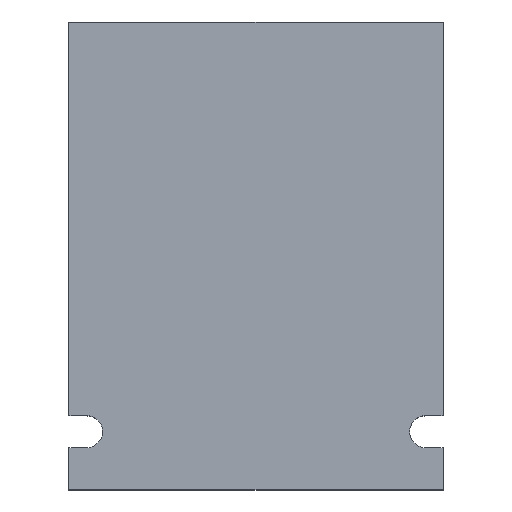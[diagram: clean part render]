
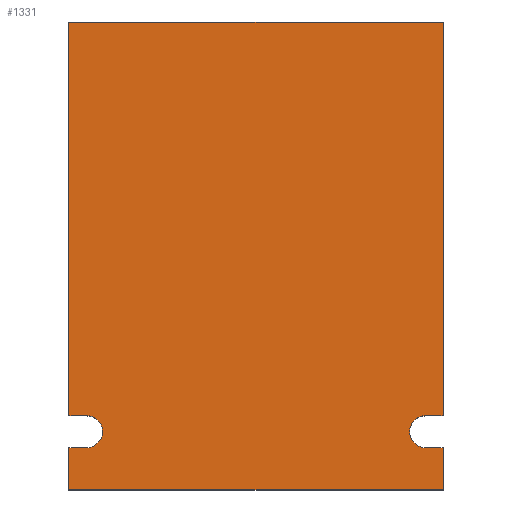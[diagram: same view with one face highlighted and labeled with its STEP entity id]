
A CAD part, top view. The second image highlights one B-rep face of the part: STEP entity #1331.
In plain terms, the highlighted planar face has unit normal (0, 0, 1).
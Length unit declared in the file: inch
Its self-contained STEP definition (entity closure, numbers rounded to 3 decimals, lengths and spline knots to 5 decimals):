
#1=DIRECTION('',(-1.,0.,0.));
#2=VECTOR('',#1,4.);
#3=CARTESIAN_POINT('',(4.,0.,0.));
#4=LINE('',#3,#2);
#27=DIRECTION('',(1.,0.,0.));
#28=VECTOR('',#27,0.188);
#29=CARTESIAN_POINT('',(0.,-4.552,0.));
#30=LINE('',#29,#28);
#31=CARTESIAN_POINT('',(0.188,-4.38,0.));
#32=DIRECTION('',(0.,0.,1.));
#33=DIRECTION('',(0.,-1.,0.));
#34=AXIS2_PLACEMENT_3D('',#31,#32,#33);
#36=DIRECTION('',(1.,0.,0.));
#37=VECTOR('',#36,0.188);
#38=CARTESIAN_POINT('',(0.,-4.208,0.));
#39=LINE('',#38,#37);
#40=DIRECTION('',(0.,1.,0.));
#41=VECTOR('',#40,4.208);
#42=CARTESIAN_POINT('',(0.,-4.208,0.));
#43=LINE('',#42,#41);
#44=DIRECTION('',(-1.,0.,0.));
#45=VECTOR('',#44,0.187);
#46=CARTESIAN_POINT('',(4.,-4.208,0.));
#47=LINE('',#46,#45);
#48=CARTESIAN_POINT('',(3.813,-4.38,0.));
#49=DIRECTION('',(0.,0.,1.));
#50=DIRECTION('',(0.,1.,0.));
#51=AXIS2_PLACEMENT_3D('',#48,#49,#50);
#53=DIRECTION('',(-1.,0.,0.));
#54=VECTOR('',#53,0.187);
#55=CARTESIAN_POINT('',(4.,-4.552,0.));
#56=LINE('',#55,#54);
#57=DIRECTION('',(0.,1.,0.));
#58=VECTOR('',#57,0.448);
#59=CARTESIAN_POINT('',(0.,-5.,0.));
#60=LINE('',#59,#58);
#87=DIRECTION('',(-1.,0.,0.));
#88=VECTOR('',#87,4.);
#89=CARTESIAN_POINT('',(4.,-5.,0.));
#90=LINE('',#89,#88);
#117=DIRECTION('',(0.,1.,0.));
#118=VECTOR('',#117,4.208);
#119=CARTESIAN_POINT('',(4.,-4.208,0.));
#120=LINE('',#119,#118);
#125=DIRECTION('',(0.,1.,0.));
#126=VECTOR('',#125,0.448);
#127=CARTESIAN_POINT('',(4.,-5.,0.));
#128=LINE('',#127,#126);
#1034=CARTESIAN_POINT('',(4.,0.,0.));
#1035=CARTESIAN_POINT('',(0.,0.,0.));
#1036=VERTEX_POINT('',#1034);
#1037=VERTEX_POINT('',#1035);
#1042=CARTESIAN_POINT('',(4.,-5.,0.));
#1043=CARTESIAN_POINT('',(0.,-5.,0.));
#1044=VERTEX_POINT('',#1042);
#1045=VERTEX_POINT('',#1043);
#1050=CARTESIAN_POINT('',(0.,-4.552,0.));
#1051=CARTESIAN_POINT('',(0.188,-4.552,0.));
#1052=VERTEX_POINT('',#1050);
#1053=VERTEX_POINT('',#1051);
#1054=CARTESIAN_POINT('',(0.188,-4.208,0.));
#1055=VERTEX_POINT('',#1054);
#1056=CARTESIAN_POINT('',(0.,-4.208,0.));
#1057=VERTEX_POINT('',#1056);
#1058=CARTESIAN_POINT('',(4.,-4.208,0.));
#1059=CARTESIAN_POINT('',(3.813,-4.208,0.));
#1060=VERTEX_POINT('',#1058);
#1061=VERTEX_POINT('',#1059);
#1062=CARTESIAN_POINT('',(3.813,-4.552,0.));
#1063=VERTEX_POINT('',#1062);
#1064=CARTESIAN_POINT('',(4.,-4.552,0.));
#1065=VERTEX_POINT('',#1064);
#1301=CARTESIAN_POINT('',(0.,0.,0.));
#1302=DIRECTION('',(0.,0.,1.));
#1303=DIRECTION('',(1.,0.,0.));
#1304=AXIS2_PLACEMENT_3D('',#1301,#1302,#1303);
#1305=PLANE('',#1304);
#1307=ORIENTED_EDGE('',*,*,#1306,.T.);
#1309=ORIENTED_EDGE('',*,*,#1308,.T.);
#1311=ORIENTED_EDGE('',*,*,#1310,.F.);
#1313=ORIENTED_EDGE('',*,*,#1312,.T.);
#1314=ORIENTED_EDGE('',*,*,#1284,.F.);
#1316=ORIENTED_EDGE('',*,*,#1315,.F.);
#1318=ORIENTED_EDGE('',*,*,#1317,.T.);
#1320=ORIENTED_EDGE('',*,*,#1319,.T.);
#1322=ORIENTED_EDGE('',*,*,#1321,.F.);
#1324=ORIENTED_EDGE('',*,*,#1323,.F.);
#1326=ORIENTED_EDGE('',*,*,#1325,.T.);
#1328=ORIENTED_EDGE('',*,*,#1327,.T.);
#1329=EDGE_LOOP('',(#1307,#1309,#1311,#1313,#1314,#1316,#1318,#1320,#1322,#1324,
#1326,#1328));
#1330=FACE_OUTER_BOUND('',#1329,.F.);
#1331=ADVANCED_FACE('',(#1330),#1305,.T.);
#35=CIRCLE('',#34,0.172);
#52=CIRCLE('',#51,0.172);
#1284=EDGE_CURVE('',#1036,#1037,#4,.T.);
#1306=EDGE_CURVE('',#1052,#1053,#30,.T.);
#1308=EDGE_CURVE('',#1053,#1055,#35,.T.);
#1310=EDGE_CURVE('',#1057,#1055,#39,.T.);
#1312=EDGE_CURVE('',#1057,#1037,#43,.T.);
#1315=EDGE_CURVE('',#1060,#1036,#120,.T.);
#1317=EDGE_CURVE('',#1060,#1061,#47,.T.);
#1319=EDGE_CURVE('',#1061,#1063,#52,.T.);
#1321=EDGE_CURVE('',#1065,#1063,#56,.T.);
#1323=EDGE_CURVE('',#1044,#1065,#128,.T.);
#1325=EDGE_CURVE('',#1044,#1045,#90,.T.);
#1327=EDGE_CURVE('',#1045,#1052,#60,.T.);
